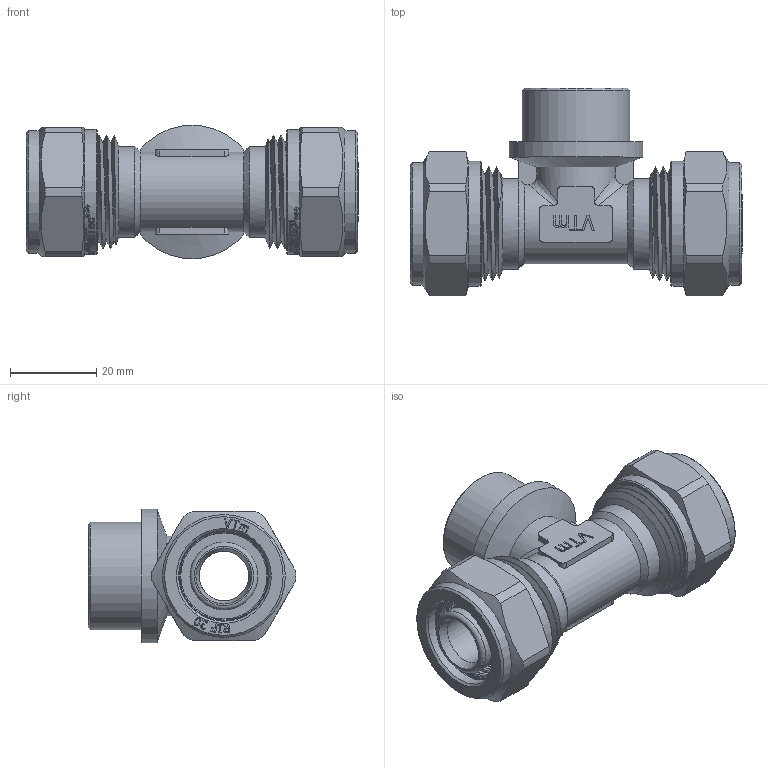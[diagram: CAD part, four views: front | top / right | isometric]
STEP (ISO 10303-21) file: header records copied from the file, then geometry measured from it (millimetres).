
FILE_DESCRIPTION(/* description */ (''),/* implementation_level */ '2;1');
FILE_NAME(/* name */ 'E:\Артём\00000\Работа удаленка\Обжимные фитинги\VTm.332.N.200420.stp',/* time_stamp */ '2020-07-08T13:58:14+03:00',/* author */ ('BeN_GaN'),/* organization */ (''),/* preprocessor_version */ 'ST-DEVELOPER v18',/* originating_system */ 'Autodesk Inventor 2020',/* authorisation */ '');
FILE_SCHEMA (('AUTOMOTIVE_DESIGN { 1 0 10303 214 3 1 1 }'));
Length unit declared in the file: millimetre
Products named in the file (1): VTm.332.N.200420
Bounding box: 77 x 48.22 x 31 mm (x, y, z)
Volume: 30311.2 mm3; surface area: 23706.1 mm2
Topology: 1 solids, 3 shells, 1398 faces, 3923 edges, 2641 vertices
Faces by surface type: bspline 722, plane 406, cylinder 189, torus 45, cone 36
Full cylindrical faces by diameter (mm): 11.5 x2, 11.622 x1, 13.4 x4, 14 x1, 15.75 x8, 18.6 x5, 19.986 x8, 20.2 x2, 20.728 x10, 21 x4, 22.2 x7, 22.8 x6, 23.201 x2, 24.2 x4, 25 x1, 26.4 x4, 28.5 x2, 29 x2, 31 x1
Entity records: 62143 total; most frequent: CARTESIAN_POINT 30645, ORIENTED_EDGE 7852, DIRECTION 4311, EDGE_CURVE 3926, VERTEX_POINT 2644, LINE 1683, VECTOR 1683, B_SPLINE_CURVE_WITH_KNOTS 1571
